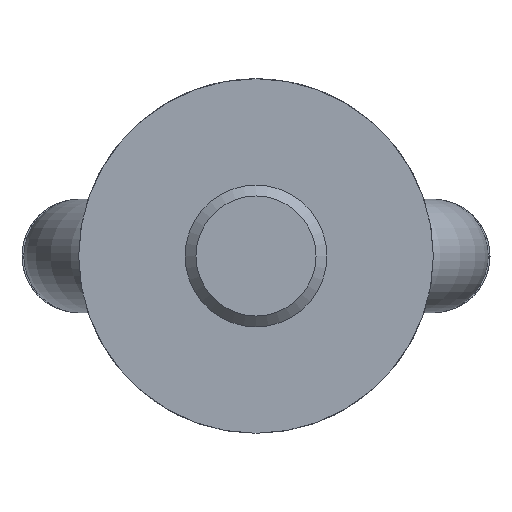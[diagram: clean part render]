
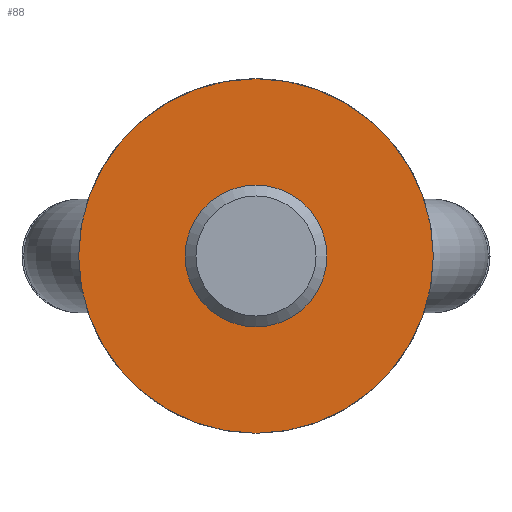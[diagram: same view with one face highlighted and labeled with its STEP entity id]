
A CAD part, front view. The second image highlights one B-rep face of the part: STEP entity #88.
In plain terms, the highlighted planar face has unit normal (0, -1, 0).
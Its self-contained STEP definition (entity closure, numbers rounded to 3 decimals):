
#88 = ADVANCED_FACE( '', ( #138, #139 ), #140, .F. );
#138 = FACE_BOUND( '', #207, .T. );
#139 = FACE_OUTER_BOUND( '', #208, .T. );
#140 = PLANE( '', #209 );
#207 = EDGE_LOOP( '', ( #336 ) );
#208 = EDGE_LOOP( '', ( #337 ) );
#209 = AXIS2_PLACEMENT_3D( '', #338, #339, #340 );
#336 = ORIENTED_EDGE( '', *, *, #453, .T. );
#337 = ORIENTED_EDGE( '', *, *, #455, .T. );
#338 = CARTESIAN_POINT( '', ( 25., 0., 0. ) );
#339 = DIRECTION( '', ( 0., 1., 0. ) );
#340 = DIRECTION( '', ( 0., 0., 1. ) );
#453 = EDGE_CURVE( '', #531, #531, #532, .T. );
#455 = EDGE_CURVE( '', #534, #534, #535, .T. );
#531 = VERTEX_POINT( '', #1009 );
#532 = CIRCLE( '', #1010, 10. );
#534 = VERTEX_POINT( '', #1012 );
#535 = CIRCLE( '', #1013, 25. );
#1009 = CARTESIAN_POINT( '', ( 0., 0., 10. ) );
#1010 = AXIS2_PLACEMENT_3D( '', #1077, #1078, #1079 );
#1012 = CARTESIAN_POINT( '', ( 0., 0., -25. ) );
#1013 = AXIS2_PLACEMENT_3D( '', #1083, #1084, #1085 );
#1077 = CARTESIAN_POINT( '', ( 0., 0., 0. ) );
#1078 = DIRECTION( '', ( 0., 1., 0. ) );
#1079 = DIRECTION( '', ( 0., 0., 1. ) );
#1083 = CARTESIAN_POINT( '', ( 0., 0., 0. ) );
#1084 = DIRECTION( '', ( 0., -1., 0. ) );
#1085 = DIRECTION( '', ( 0., 0., -1. ) );
